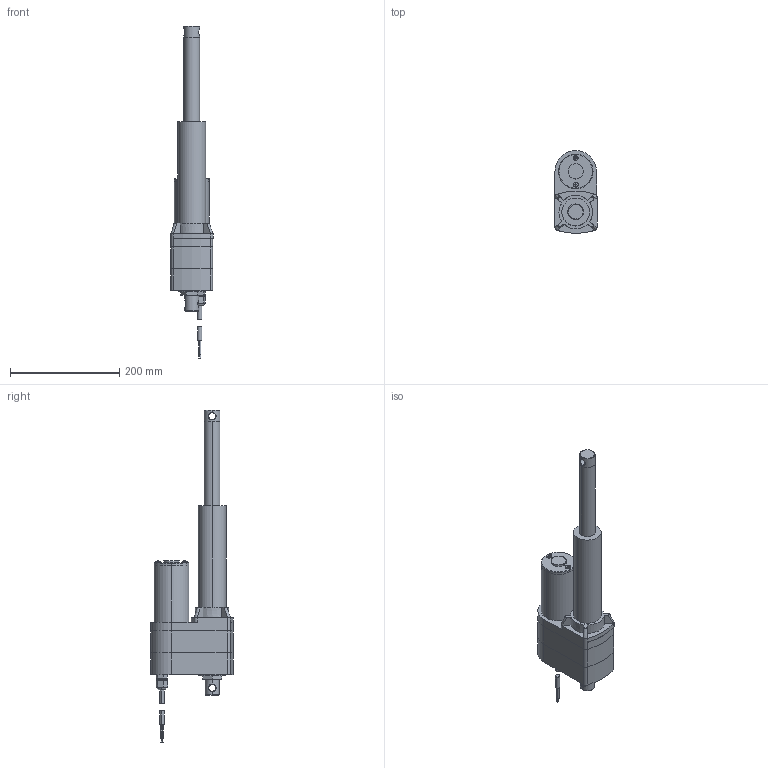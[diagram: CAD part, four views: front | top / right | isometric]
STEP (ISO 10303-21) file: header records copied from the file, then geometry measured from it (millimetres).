
FILE_DESCRIPTION (( 'STEP AP203' ), '1' );
FILE_NAME ('LA5_ACME_6_POT_x.step', '2021-02-24T15:20:21', ( '' ), ( '' ), 'SwSTEP 2.0', 'SolidWorks 2017', '' );
FILE_SCHEMA (( 'CONFIG_CONTROL_DESIGN' ));
Length unit declared in the file: millimetre
Products named in the file (1): LA5_ACME_6_POT_x
Bounding box: 77.22 x 151.29 x 607.52 mm (x, y, z)
Volume: 2007384 mm3; surface area: 205395.2 mm2
Topology: 14 solids, 14 shells, 333 faces, 716 edges, 446 vertices
Faces by surface type: plane 160, cylinder 113, cone 24, bspline 22, torus 10, sphere 4
Entity records: 11050 total; most frequent: CARTESIAN_POINT 3684, DIRECTION 1573, ORIENTED_EDGE 1432, EDGE_CURVE 716, AXIS2_PLACEMENT_3D 615, VERTEX_POINT 446, EDGE_LOOP 376, VECTOR 343
